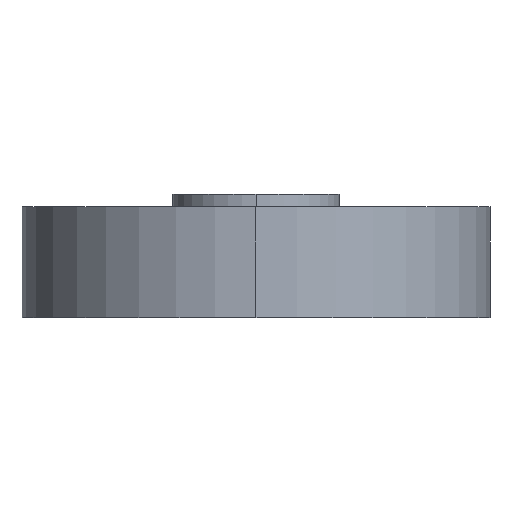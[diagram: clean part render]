
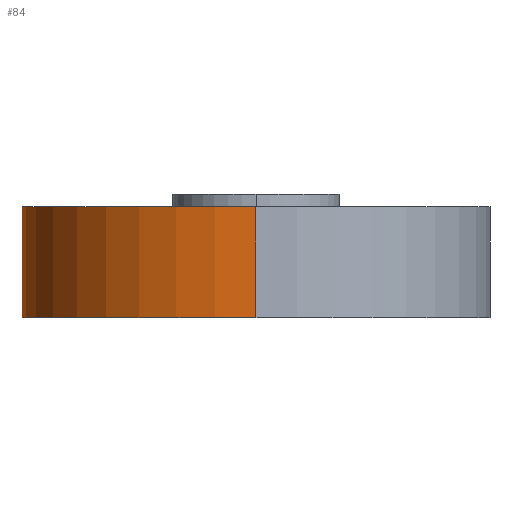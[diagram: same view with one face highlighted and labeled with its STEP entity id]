
A CAD part, left-side view. The second image highlights one B-rep face of the part: STEP entity #84.
In plain terms, the highlighted cylindrical face has radius 19 mm (diameter 38 mm), a partial arc.
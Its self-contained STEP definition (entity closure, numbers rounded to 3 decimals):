
#84=ADVANCED_FACE('',(#259),#260,.T.);
#259=FACE_OUTER_BOUND('',#640,.T.);
#260=CYLINDRICAL_SURFACE('',#641,19.0);
#640=EDGE_LOOP('',(#1066,#1067,#1068,#1069,#1070,#1071));
#641=AXIS2_PLACEMENT_3D('',#1072,#1073,#1074);
#1066=ORIENTED_EDGE('',*,*,#2196,.F.);
#1067=ORIENTED_EDGE('',*,*,#2197,.F.);
#1068=ORIENTED_EDGE('',*,*,#2198,.F.);
#1069=ORIENTED_EDGE('',*,*,#2199,.F.);
#1070=ORIENTED_EDGE('',*,*,#2200,.F.);
#1071=ORIENTED_EDGE('',*,*,#2201,.T.);
#1072=CARTESIAN_POINT('',(0.0,0.0,4.5));
#1073=DIRECTION('',(0.0,0.0,-1.0));
#1074=DIRECTION('',(1.0,0.0,0.0));
#2196=EDGE_CURVE('',#2563,#2564,#2565,.T.);
#2197=EDGE_CURVE('',#2566,#2563,#2567,.T.);
#2198=EDGE_CURVE('',#2568,#2566,#2569,.T.);
#2199=EDGE_CURVE('',#2570,#2568,#2571,.T.);
#2200=EDGE_CURVE('',#2572,#2570,#2573,.T.);
#2201=EDGE_CURVE('',#2572,#2564,#2574,.T.);
#2563=VERTEX_POINT('',#3129);
#2564=VERTEX_POINT('',#3130);
#2565=LINE('',#3131,#3132);
#2566=VERTEX_POINT('',#3133);
#2567=CIRCLE('',#3134,19.0);
#2568=VERTEX_POINT('',#3135);
#2569=LINE('',#3136,#3137);
#2570=VERTEX_POINT('',#3138);
#2571=CIRCLE('',#3139,19.0);
#2572=VERTEX_POINT('',#3140);
#2573=LINE('',#3141,#3142);
#2574=B_SPLINE_CURVE_WITH_KNOTS('',3,(#3143,#3144,#3145,#3146,#3147,#3148,#3149,#3150,#3151,#3152,#3153,#3154,#3155,#3156,#3157,#3158,#3159,#3160,#3161,#3162,#3163,#3164,#3165,#3166,#3167,#3168,#3169,#3170,#3171,#3172,#3173,#3174,#3175,#3176,#3177),.UNSPECIFIED.,.F.,.F.,(4,2,2,2,2,2,2,2,3,2,2,2,2,2,2,2,4),(9.954,10.369,10.784,11.198,11.613,12.028,12.443,12.857,13.272,13.687,14.102,14.516,14.931,15.346,15.761,16.175,16.59),.UNSPECIFIED.);
#3129=CARTESIAN_POINT('',(19.0,0.0,0.0));
#3130=CARTESIAN_POINT('',(19.0,0.0,0.8));
#3131=CARTESIAN_POINT('',(19.0,0.,4.5));
#3132=VECTOR('',#3843,1.0);
#3133=CARTESIAN_POINT('',(-19.0,0.,0.0));
#3134=AXIS2_PLACEMENT_3D('',#3844,#3845,#3846);
#3135=CARTESIAN_POINT('',(-19.0,0.,9.0));
#3136=CARTESIAN_POINT('',(-19.0,0.,4.5));
#3137=VECTOR('',#3847,1.0);
#3138=CARTESIAN_POINT('',(19.0,0.0,9.0));
#3139=AXIS2_PLACEMENT_3D('',#3848,#3849,#3850);
#3140=CARTESIAN_POINT('',(19.0,0.,5.2));
#3141=CARTESIAN_POINT('',(19.0,0.,4.5));
#3142=VECTOR('',#3851,1.0);
#3143=CARTESIAN_POINT('',(19.0,0.,5.2));
#3144=CARTESIAN_POINT('',(19.0,0.138,5.2));
#3145=CARTESIAN_POINT('',(18.998,0.281,5.187));
#3146=CARTESIAN_POINT('',(18.992,0.565,5.131));
#3147=CARTESIAN_POINT('',(18.987,0.707,5.089));
#3148=CARTESIAN_POINT('',(18.975,0.978,4.976));
#3149=CARTESIAN_POINT('',(18.968,1.108,4.906));
#3150=CARTESIAN_POINT('',(18.953,1.348,4.745));
#3151=CARTESIAN_POINT('',(18.944,1.458,4.653));
#3152=CARTESIAN_POINT('',(18.928,1.653,4.458));
#3153=CARTESIAN_POINT('',(18.92,1.745,4.348));
#3154=CARTESIAN_POINT('',(18.904,1.906,4.108));
#3155=CARTESIAN_POINT('',(18.897,1.976,3.978));
#3156=CARTESIAN_POINT('',(18.885,2.089,3.707));
#3157=CARTESIAN_POINT('',(18.88,2.131,3.565));
#3158=CARTESIAN_POINT('',(18.874,2.187,3.281));
#3159=CARTESIAN_POINT('',(18.872,2.2,3.138));
#3160=CARTESIAN_POINT('',(18.872,2.2,3.0));
#3161=CARTESIAN_POINT('',(18.872,2.2,2.862));
#3162=CARTESIAN_POINT('',(18.874,2.187,2.719));
#3163=CARTESIAN_POINT('',(18.88,2.131,2.435));
#3164=CARTESIAN_POINT('',(18.885,2.089,2.293));
#3165=CARTESIAN_POINT('',(18.897,1.976,2.022));
#3166=CARTESIAN_POINT('',(18.904,1.906,1.892));
#3167=CARTESIAN_POINT('',(18.92,1.745,1.652));
#3168=CARTESIAN_POINT('',(18.928,1.653,1.542));
#3169=CARTESIAN_POINT('',(18.944,1.458,1.347));
#3170=CARTESIAN_POINT('',(18.953,1.348,1.255));
#3171=CARTESIAN_POINT('',(18.968,1.108,1.094));
#3172=CARTESIAN_POINT('',(18.975,0.978,1.024));
#3173=CARTESIAN_POINT('',(18.987,0.707,0.911));
#3174=CARTESIAN_POINT('',(18.992,0.565,0.869));
#3175=CARTESIAN_POINT('',(18.998,0.281,0.813));
#3176=CARTESIAN_POINT('',(19.0,0.138,0.8));
#3177=CARTESIAN_POINT('',(19.0,0.0,0.8));
#3843=DIRECTION('',(0.0,0.0,1.0));
#3844=CARTESIAN_POINT('',(0.0,0.0,0.0));
#3845=DIRECTION('',(0.0,0.0,-1.0));
#3846=DIRECTION('',(1.0,0.0,0.0));
#3847=DIRECTION('',(0.0,0.0,-1.0));
#3848=CARTESIAN_POINT('',(0.0,0.0,9.0));
#3849=DIRECTION('',(0.0,0.0,1.0));
#3850=DIRECTION('',(1.0,0.0,0.0));
#3851=DIRECTION('',(0.0,0.0,1.0));
